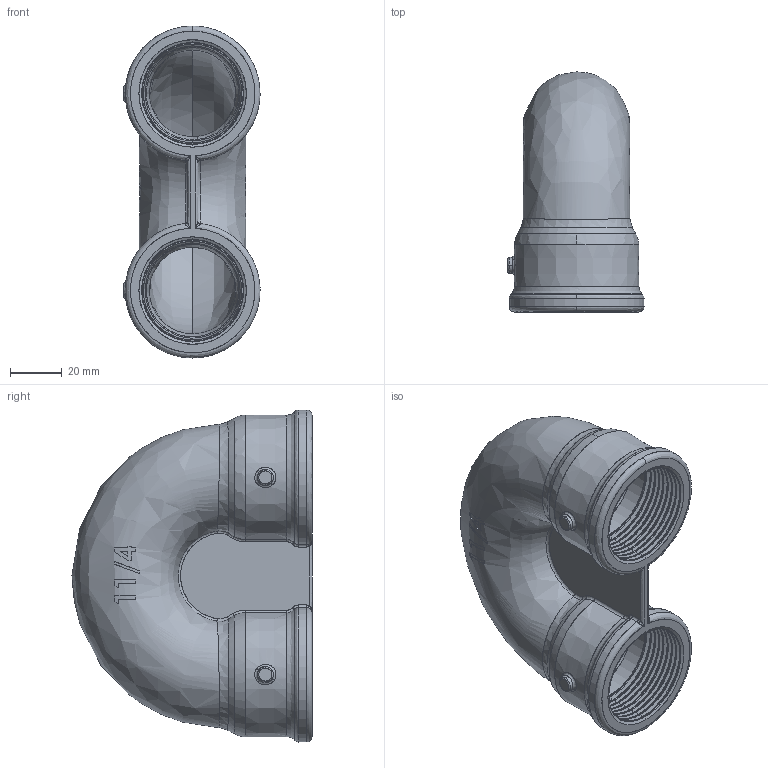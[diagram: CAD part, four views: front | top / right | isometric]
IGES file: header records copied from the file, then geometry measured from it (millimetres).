
Start section: SolidWorks IGES file using analytic representation for surfaces
Global section: file name: C:\Users\Joel Rosa\Desktop\Tubulação\12-29-OK\12-29-008.IGS; native system: SolidWorks 2011; preprocessor: SolidWorks 2011; author: Joel Rosa; date: 131026.114455; units: millimetre
Bounding box: 52.5 x 92.55 x 128 mm (x, y, z)
Surface area: 54523.1 mm2 (no closed solid volume)
Topology: 0 solids, 0 shells, 398 faces, 3562 edges, 3558 vertices
Faces by surface type: bspline 287, revolution 111
